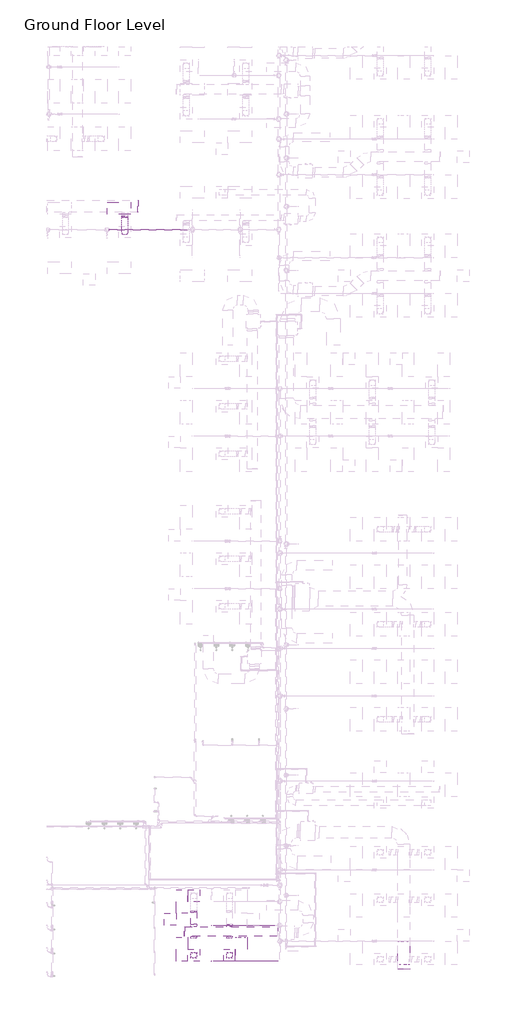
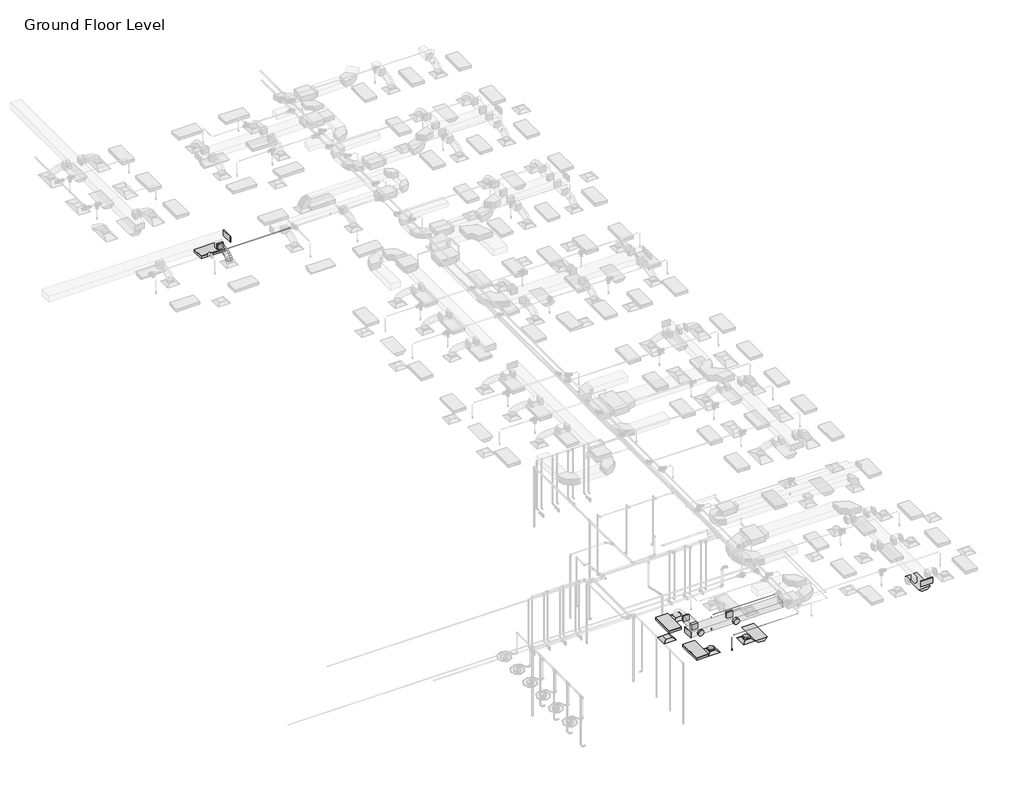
# One storey, part 13 of 68: 11 duct fittings, 5 duct segments, 5 light fixtures, 5 pipe segments, 4 air terminals, 2 fire suppression terminals.
"""IFC4 building model written with IfcOpenShell, lengths in millimetres."""

from ifc_helpers import new_model, si_unit, point, frame, frame_2d, origin, place, context, project, spatial, polyline, circle_curve, ellipse_curve, trimmed, segment, composite_curve, outline, extrude, transform, mapped, element, save
from ifc_brep_helpers import plane_surface, cylinder_surface, advanced_brep
from components import m_return_diffuser_600_x_600_face_300_x_300_connection_ff221211, m_rectangular_endcap_standard_72d4d00d, m_rectangular_endcap_standard_0f0ff112, m_rectangular_takeoff_standard_2be5eba1, m_rectangular_to_round_transition_angle_45_degree_641efff0, m_round_takeoff_standard_603b0510, m_sprinkler_dry_pendent_hosted_15_mm_dry_pendent_9bda8e11, m_emergency_recessed_lighting_fixture_600x1200_277_5b10b25d, m_troffer_light_parabolic_rectangular1_0600x1200mm_4_lamp_86473d4a

model = new_model("IFC4")

# Units and contexts
model_context = context("Model", 3, world=origin())
ifc_project = project(units=[si_unit("LENGTHUNIT", "METRE", prefix="MILLI")], contexts=[model_context])

# Site, building, storey
site = spatial("IfcSite", under=ifc_project)
building = spatial("IfcBuilding", under=site)
storey = spatial("IfcBuildingStorey", under=building, Name="Ground Floor Level", Elevation=900.0)

# Air terminals
placement = place(None, origin())
m_return_diffuser_600_x_600_face_300_x_300_connection_shape = m_return_diffuser_600_x_600_face_300_x_300_connection_ff221211(model_context)
element("IfcAirTerminal", 1, ObjectType="M_Return Diffuser : 600 x 600 Face 300 x 300 Connection", at=placement, inside=storey, context=model_context, shape_type="MappedRepresentation", body=[
    mapped(m_return_diffuser_600_x_600_face_300_x_300_connection_shape, transform((142.7672394, -37764.7846466, 3650.0), x_axis=(1.0, 0.0, 0.0), y_axis=(0.0, 1.0, 0.0), z_axis=(0.0, 0.0, 1.0))),
])
element("IfcAirTerminal", 2, ObjectType="M_Supply Diffuser : 600 x 600 Face 300 x 300 Connection", at=placement, inside=storey, context=model_context, shape_type="MappedRepresentation", body=[
    mapped(m_return_diffuser_600_x_600_face_300_x_300_connection_shape, transform((1342.7672394, -36564.7846466, 3650.0), x_axis=(1.0, 0.0, 0.0), y_axis=(0.0, 1.0, 0.0), z_axis=(0.0, 0.0, 1.0))),
])
element("IfcAirTerminal", 3, ObjectType="M_Supply Diffuser : 600 x 600 Face 300 x 300 Connection", at=placement, inside=storey, context=model_context, shape_type="MappedRepresentation", body=[
    mapped(m_return_diffuser_600_x_600_face_300_x_300_connection_shape, transform((1342.7672394, -39564.7846466, 3650.0), x_axis=(1.0, 0.0, 0.0), y_axis=(0.0, 1.0, 0.0), z_axis=(0.0, 0.0, 1.0))),
])
element("IfcAirTerminal", 4, ObjectType="M_Supply Diffuser : 600 x 600 Face 300 x 300 Connection", at=placement, inside=storey, context=model_context, shape_type="MappedRepresentation", body=[
    mapped(m_return_diffuser_600_x_600_face_300_x_300_connection_shape, transform((3142.7672394, -39564.7846466, 3650.0), x_axis=(1.0, 0.0, 0.0), y_axis=(0.0, 1.0, 0.0), z_axis=(0.0, 0.0, 1.0))),
])

# Duct fittings
m_rectangular_endcap_standard_shape = m_rectangular_endcap_standard_72d4d00d(model_context)
element("IfcDuctFitting", 5, ObjectType="M_Rectangular Endcap : Standard", at=placement, inside=storey, context=model_context, shape_type="MappedRepresentation", body=[
    mapped(m_rectangular_endcap_standard_shape, transform((877.3672394, -38372.6128682, 4100.0), x_axis=(-0.9999999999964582, 0.0, -2.6615447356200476e-06), y_axis=(0.0, -1.0000000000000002, 0.0), z_axis=(-2.6615447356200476e-06, 0.0, 0.9999999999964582))),
])
m_rectangular_endcap_standard_2_shape = m_rectangular_endcap_standard_0f0ff112(model_context)
element("IfcDuctFitting", 6, ObjectType="M_Rectangular Endcap : Standard", at=placement, inside=storey, context=model_context, shape_type="MappedRepresentation", body=[
    mapped(m_rectangular_endcap_standard_2_shape, transform((-1501.8327605, -1768.2846466, 4099.9873731), x_axis=(0.9999999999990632, 0.0, -1.368824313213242e-06), y_axis=(0.0, 1.0, 0.0), z_axis=(1.368824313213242e-06, 0.0, 0.9999999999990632))),
])
element("IfcDuctFitting", 7, ObjectType="M_Rectangular Endcap : Standard", at=placement, inside=storey, context=model_context, shape_type="MappedRepresentation", body=[
    mapped(m_rectangular_endcap_standard_2_shape, transform((11933.8644074, -40264.7726336, 4099.9875), x_axis=(0.0, -1.0, 0.0), y_axis=(1.0, 0.0, 0.0), z_axis=(0.0, 0.0, 1.0))),
])
m_rectangular_takeoff_standard_shape = m_rectangular_takeoff_standard_2be5eba1(model_context)
element("IfcDuctFitting", 8, ObjectType="M_Rectangular Takeoff : Standard", at=placement, inside=storey, context=model_context, shape_type="MappedRepresentation", body=[
    mapped(m_rectangular_takeoff_standard_shape, transform((3142.7672394, -38122.6128682, 4100.0), x_axis=(0.0, 1.0, 0.0), y_axis=(1.0, 0.0, 0.0), z_axis=(0.0, 0.0, -1.0))),
])
element("IfcDuctFitting", 9, ObjectType="M_Rectangular Takeoff : Standard", at=placement, inside=storey, context=model_context, shape_type="MappedRepresentation", body=[
    mapped(m_rectangular_takeoff_standard_shape, transform((1342.7672394, -38122.6128682, 4100.0), x_axis=(0.0, 1.0, 0.0), y_axis=(1.0, 0.0, 0.0), z_axis=(0.0, 0.0, -1.0))),
])
m_rectangular_to_round_transition_angle_45_degree_shape = m_rectangular_to_round_transition_angle_45_degree_641efff0(model_context)
element("IfcDuctFitting", 10, ObjectType="M_Rectangular to Round Transition - Angle : 45 Degree", at=placement, inside=storey, context=model_context, shape_type="MappedRepresentation", body=[
    mapped(m_rectangular_to_round_transition_angle_45_degree_shape, transform((-2137.2327605, -2237.4369582, 4099.9882429), x_axis=(0.0, -1.0, 0.0), y_axis=(1.0, 0.0, 0.0), z_axis=(0.0, 0.0, 1.0))),
])
element("IfcDuctFitting", 11, ObjectType="M_Rectangular to Round Transition - Angle : 45 Degree", at=placement, inside=storey, context=model_context, shape_type="MappedRepresentation", body=[
    mapped(m_rectangular_to_round_transition_angle_45_degree_shape, transform((1342.7672394, -39564.7846466, 3751.6), x_axis=(0.0, 0.0, 1.0), y_axis=(-1.0, 0.0, 0.0), z_axis=(0.0, -1.0, 0.0))),
])
element("IfcDuctFitting", 12, ObjectType="M_Rectangular to Round Transition - Angle : 45 Degree", at=placement, inside=storey, context=model_context, shape_type="MappedRepresentation", body=[
    mapped(m_rectangular_to_round_transition_angle_45_degree_shape, transform((3142.7672394, -39564.7846466, 3751.6), x_axis=(0.0, 0.0, 1.0), y_axis=(-1.0, 0.0, 0.0), z_axis=(0.0, -1.0, 0.0))),
])
element("IfcDuctFitting", 13, ObjectType="M_Rectangular to Round Transition - Angle : 45 Degree", at=placement, inside=storey, context=model_context, shape_type="MappedRepresentation", body=[
    mapped(m_rectangular_to_round_transition_angle_45_degree_shape, transform((1342.7672394, -37392.1205779, 4100.0), x_axis=(0.0, 1.0, 0.0), y_axis=(-1.0, 0.0, 0.0), z_axis=(0.0, 0.0, 1.0))),
])
m_round_takeoff_standard_shape = m_round_takeoff_standard_603b0510(model_context)
element("IfcDuctFitting", 14, ObjectType="M_Round Takeoff : Standard", at=placement, inside=storey, context=model_context, shape_type="MappedRepresentation", body=[
    mapped(m_round_takeoff_standard_shape, transform((1342.7672394, -38622.6128682, 4100.0), x_axis=(0.0, -1.0, 0.0), y_axis=(-1.0, 0.0, 0.0), z_axis=(0.0, 0.0, -1.0))),
])
element("IfcDuctFitting", 15, ObjectType="M_Round Takeoff : Standard", at=placement, inside=storey, context=model_context, shape_type="MappedRepresentation", body=[
    mapped(m_round_takeoff_standard_shape, transform((3142.7672394, -38622.6128682, 4100.0), x_axis=(0.0, -1.0, 0.0), y_axis=(-1.0, 0.0, 0.0), z_axis=(0.0, 0.0, -1.0))),
])

# Duct segments
element("IfcDuctSegment", 16, ObjectType="Flex - Round", at=placement, inside=storey, context=model_context, shape_type="AdvancedBrep", body=[
    advanced_brep(
    [(-1987.2327605, -3064.7846466, 3826.6), (-2137.2327605, -3214.7846466, 3826.6), (-2287.2327605, -3064.7846466, 3826.6), (-2137.2327605, -2914.7846466, 3826.6), (-1987.2327605, -3064.7846466, 3857.9382049), (-2137.2327605, -3214.7846466, 3883.5820304), (-2287.2327605, -3064.7846466, 3857.9382049), (-2137.2327605, -2914.7846466, 3832.2943795), (-1987.2327605, -3047.768388, 3906.2507872), (-2137.2327605, -3181.5056265, 3978.0678652), (-2287.2327605, -3047.768388, 3906.2507872), (-2137.2327605, -2914.0311496, 3834.4337093), (-1987.2327605, -3000.5836201, 3968.710775), (-2137.2327605, -3104.787507, 4079.622096), (-2287.2327605, -3000.5836201, 3968.710775), (-2137.2327605, -2896.3797333, 3857.7994541), (-1987.2327605, -2929.0263545, 4016.0680579), (-2137.2327605, -2997.957239, 4150.3233892), (-2287.2327605, -2929.0263545, 4016.0680579), (-2137.2327605, -2860.09547, 3881.8127266), (-1987.2327605, -2838.8926027, 4050.4107303), (-2137.2327605, -2882.4498996, 4194.3338808), (-2287.2327605, -2838.8926027, 4050.4107303), (-2137.2327605, -2795.3353058, 3906.4875799), (-1987.2327605, -2735.9783764, 4073.8268868), (-2137.2327605, -2762.5360145, 4221.6179832), (-2287.2327605, -2735.9783764, 4073.8268868), (-2137.2327605, -2709.4207382, 3926.0357904), (-1987.2327605, -2626.0796872, 4088.4046218), (-2137.2327605, -2641.2277335, 4237.7091667), (-2287.2327605, -2626.0796872, 4088.4046218), (-2137.2327605, -2610.9316408, 3939.1000769), (-1987.2327605, -2514.9925467, 4096.2320299), (-2137.2327605, -2522.4956529, 4246.0752516), (-2287.2327605, -2514.9925467, 4096.2320299), (-2137.2327605, -2507.4894404, 3946.3888082), (-1987.2327605, -2408.5129665, 4099.3972054), (-2137.2327605, -2411.2031539, 4249.3834943), (-2287.2327605, -2408.5129665, 4099.3972054), (-2137.2327605, -2405.822779, 3949.4109165), (-1987.2327605, -2312.4369582, 4099.9882429), (-2137.2327605, -2311.5142102, 3949.9910811), (-2287.2327605, -2312.4369582, 4099.9882429), (-2137.2327605, -2313.3597063, 4249.9854047)],
    [
        (0, 1, circle_curve(frame((-2137.2327605, -3064.7846466, 3826.6), z_axis=(0.0, 0.0, -1.0), x_axis=(1.0, 0.0, 0.0)), 150.0)),
        (1, 2, circle_curve(frame((-2137.2327605, -3064.7846466, 3826.6), z_axis=(0.0, 0.0, -1.0), x_axis=(1.0, 0.0, 0.0)), 150.0)),
        (2, 3, circle_curve(frame((-2137.2327605, -3064.7846466, 3826.6), z_axis=(0.0, 0.0, -1.0), x_axis=(1.0, 0.0, 0.0)), 150.0)),
        (3, 0, circle_curve(frame((-2137.2327605, -3064.7846466, 3826.6), z_axis=(0.0, 0.0, -1.0), x_axis=(1.0, 0.0, 0.0)), 150.0)),
        (0, 4),
        (4, 5, ellipse_curve(frame((-2137.2327605, -3064.7846466, 3857.9382049), z_axis=(0.0, -0.1685139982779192, -0.9856992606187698), x_axis=(0.0, 0.9856992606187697, -0.1685139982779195)), 152.1762326, 150.0)),
        (5, 1),
        (5, 6, ellipse_curve(frame((-2137.2327605, -3064.7846466, 3857.9382049), z_axis=(0.0, -0.1685139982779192, -0.9856992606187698), x_axis=(0.0, 0.9856992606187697, -0.1685139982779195)), 152.1762326, 150.0)),
        (6, 2),
        (6, 7, ellipse_curve(frame((-2137.2327605, -3064.7846466, 3857.9382049), z_axis=(0.0, -0.1685139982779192, -0.9856992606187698), x_axis=(0.0, 0.9856992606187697, -0.1685139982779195)), 152.1762326, 150.0)),
        (7, 3),
        (7, 4, ellipse_curve(frame((-2137.2327605, -3064.7846466, 3857.9382049), z_axis=(0.0, -0.1685139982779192, -0.9856992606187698), x_axis=(0.0, 0.9856992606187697, -0.1685139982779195)), 152.1762326, 150.0)),
        (4, 8),
        (8, 9, ellipse_curve(frame((-2137.2327605, -3047.768388, 3906.2507872), z_axis=(0.0, -0.4731022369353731, -0.8810075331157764), x_axis=(0.0, 0.8810075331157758, -0.47310223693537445)), 151.8003348, 150.0)),
        (9, 5),
        (9, 10, ellipse_curve(frame((-2137.2327605, -3047.768388, 3906.2507872), z_axis=(0.0, -0.4731022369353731, -0.8810075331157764), x_axis=(0.0, 0.8810075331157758, -0.47310223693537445)), 151.8003348, 150.0)),
        (10, 6),
        (10, 11, ellipse_curve(frame((-2137.2327605, -3047.768388, 3906.2507872), z_axis=(0.0, -0.4731022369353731, -0.8810075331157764), x_axis=(0.0, 0.8810075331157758, -0.47310223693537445)), 151.8003348, 150.0)),
        (11, 7),
        (11, 8, ellipse_curve(frame((-2137.2327605, -3047.768388, 3906.2507872), z_axis=(0.0, -0.4731022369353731, -0.8810075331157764), x_axis=(0.0, 0.8810075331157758, -0.47310223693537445)), 151.8003348, 150.0)),
        (8, 12),
        (12, 13, ellipse_curve(frame((-2137.2327605, -3000.5836201, 3968.710775), z_axis=(0.0, -0.728800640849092, -0.6847259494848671), x_axis=(0.0, 0.6847259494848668, -0.7288006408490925)), 152.1833472, 150.0)),
        (13, 9),
        (13, 14, ellipse_curve(frame((-2137.2327605, -3000.5836201, 3968.710775), z_axis=(0.0, -0.728800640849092, -0.6847259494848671), x_axis=(0.0, 0.6847259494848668, -0.7288006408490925)), 152.1833472, 150.0)),
        (14, 10),
        (14, 15, ellipse_curve(frame((-2137.2327605, -3000.5836201, 3968.710775), z_axis=(0.0, -0.728800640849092, -0.6847259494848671), x_axis=(0.0, 0.6847259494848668, -0.7288006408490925)), 152.1833472, 150.0)),
        (15, 11),
        (15, 12, ellipse_curve(frame((-2137.2327605, -3000.5836201, 3968.710775), z_axis=(0.0, -0.728800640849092, -0.6847259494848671), x_axis=(0.0, 0.6847259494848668, -0.7288006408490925)), 152.1833472, 150.0)),
        (12, 16),
        (16, 17, ellipse_curve(frame((-2137.2327605, -2929.0263545, 4016.0680579), z_axis=(0.0, -0.8895967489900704, -0.456746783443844), x_axis=(0.0, 0.45674678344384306, -0.8895967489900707)), 150.917066, 150.0)),
        (17, 13),
        (17, 18, ellipse_curve(frame((-2137.2327605, -2929.0263545, 4016.0680579), z_axis=(0.0, -0.8895967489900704, -0.456746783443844), x_axis=(0.0, 0.45674678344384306, -0.8895967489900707)), 150.917066, 150.0)),
        (18, 14),
        (18, 19, ellipse_curve(frame((-2137.2327605, -2929.0263545, 4016.0680579), z_axis=(0.0, -0.8895967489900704, -0.456746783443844), x_axis=(0.0, 0.45674678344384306, -0.8895967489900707)), 150.917066, 150.0)),
        (19, 15),
        (19, 16, ellipse_curve(frame((-2137.2327605, -2929.0263545, 4016.0680579), z_axis=(0.0, -0.8895967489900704, -0.456746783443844), x_axis=(0.0, 0.45674678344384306, -0.8895967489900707)), 150.917066, 150.0)),
        (16, 20),
        (20, 21, ellipse_curve(frame((-2137.2327605, -2838.8926027, 4050.4107303), z_axis=(0.0, -0.9571272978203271, -0.2896676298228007), x_axis=(0.0, 0.28966762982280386, -0.957127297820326)), 150.369915, 150.0)),
        (21, 17),
        (21, 22, ellipse_curve(frame((-2137.2327605, -2838.8926027, 4050.4107303), z_axis=(0.0, -0.9571272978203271, -0.2896676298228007), x_axis=(0.0, 0.28966762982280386, -0.957127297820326)), 150.369915, 150.0)),
        (22, 18),
        (22, 23, ellipse_curve(frame((-2137.2327605, -2838.8926027, 4050.4107303), z_axis=(0.0, -0.9571272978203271, -0.2896676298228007), x_axis=(0.0, 0.28966762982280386, -0.957127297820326)), 150.369915, 150.0)),
        (23, 19),
        (23, 20, ellipse_curve(frame((-2137.2327605, -2838.8926027, 4050.4107303), z_axis=(0.0, -0.9571272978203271, -0.2896676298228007), x_axis=(0.0, 0.28966762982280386, -0.957127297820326)), 150.369915, 150.0)),
        (20, 24),
        (24, 25, ellipse_curve(frame((-2137.2327605, -2735.9783764, 4073.8268868), z_axis=(0.0, -0.9842352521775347, -0.1768642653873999), x_axis=(0.0, 0.1768642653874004, -0.9842352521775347)), 150.1583042, 150.0)),
        (25, 21),
        (25, 26, ellipse_curve(frame((-2137.2327605, -2735.9783764, 4073.8268868), z_axis=(0.0, -0.9842352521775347, -0.1768642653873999), x_axis=(0.0, 0.1768642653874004, -0.9842352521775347)), 150.1583042, 150.0)),
        (26, 22),
        (26, 27, ellipse_curve(frame((-2137.2327605, -2735.9783764, 4073.8268868), z_axis=(0.0, -0.9842352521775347, -0.1768642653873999), x_axis=(0.0, 0.1768642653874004, -0.9842352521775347)), 150.1583042, 150.0)),
        (27, 23),
        (27, 24, ellipse_curve(frame((-2137.2327605, -2735.9783764, 4073.8268868), z_axis=(0.0, -0.9842352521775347, -0.1768642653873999), x_axis=(0.0, 0.1768642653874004, -0.9842352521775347)), 150.1583042, 150.0)),
        (24, 28),
        (28, 29, ellipse_curve(frame((-2137.2327605, -2626.0796872, 4088.4046218), z_axis=(0.0, -0.9948925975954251, -0.10093918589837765), x_axis=(0.0, 0.10093918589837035, -0.9948925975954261)), 150.071018, 150.0)),
        (29, 25),
        (29, 30, ellipse_curve(frame((-2137.2327605, -2626.0796872, 4088.4046218), z_axis=(0.0, -0.9948925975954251, -0.10093918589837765), x_axis=(0.0, 0.10093918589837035, -0.9948925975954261)), 150.071018, 150.0)),
        (30, 26),
        (30, 31, ellipse_curve(frame((-2137.2327605, -2626.0796872, 4088.4046218), z_axis=(0.0, -0.9948925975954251, -0.10093918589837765), x_axis=(0.0, 0.10093918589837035, -0.9948925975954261)), 150.071018, 150.0)),
        (31, 27),
        (31, 28, ellipse_curve(frame((-2137.2327605, -2626.0796872, 4088.4046218), z_axis=(0.0, -0.9948925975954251, -0.10093918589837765), x_axis=(0.0, 0.10093918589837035, -0.9948925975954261)), 150.071018, 150.0)),
        (28, 32),
        (32, 33, ellipse_curve(frame((-2137.2327605, -2514.9925467, 4096.2320299), z_axis=(0.0, -0.9987486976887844, -0.050010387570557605), x_axis=(0.0, 0.05001038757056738, -0.9987486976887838)), 150.0309558, 150.0)),
        (33, 29),
        (33, 34, ellipse_curve(frame((-2137.2327605, -2514.9925467, 4096.2320299), z_axis=(0.0, -0.9987486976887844, -0.050010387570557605), x_axis=(0.0, 0.05001038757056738, -0.9987486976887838)), 150.0309558, 150.0)),
        (34, 30),
        (34, 35, ellipse_curve(frame((-2137.2327605, -2514.9925467, 4096.2320299), z_axis=(0.0, -0.9987486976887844, -0.050010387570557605), x_axis=(0.0, 0.05001038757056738, -0.9987486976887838)), 150.0309558, 150.0)),
        (35, 31),
        (35, 32, ellipse_curve(frame((-2137.2327605, -2514.9925467, 4096.2320299), z_axis=(0.0, -0.9987486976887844, -0.050010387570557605), x_axis=(0.0, 0.05001038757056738, -0.9987486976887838)), 150.0309558, 150.0)),
        (32, 36),
        (36, 37, ellipse_curve(frame((-2137.2327605, -2408.5129665, 4099.3972054), z_axis=(0.0, -0.9998391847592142, -0.017933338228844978), x_axis=(0.0, 0.017933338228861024, -0.9998391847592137)), 150.0104128, 150.0)),
        (37, 33),
        (37, 38, ellipse_curve(frame((-2137.2327605, -2408.5129665, 4099.3972054), z_axis=(0.0, -0.9998391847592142, -0.017933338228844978), x_axis=(0.0, 0.017933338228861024, -0.9998391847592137)), 150.0104128, 150.0)),
        (38, 34),
        (38, 39, ellipse_curve(frame((-2137.2327605, -2408.5129665, 4099.3972054), z_axis=(0.0, -0.9998391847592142, -0.017933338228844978), x_axis=(0.0, 0.017933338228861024, -0.9998391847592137)), 150.0104128, 150.0)),
        (39, 35),
        (39, 36, ellipse_curve(frame((-2137.2327605, -2408.5129665, 4099.3972054), z_axis=(0.0, -0.9998391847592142, -0.017933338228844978), x_axis=(0.0, 0.017933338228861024, -0.9998391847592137)), 150.0104128, 150.0)),
        (40, 41, circle_curve(frame((-2137.2327605, -2312.4369582, 4099.9882429), z_axis=(0.0, 0.9999810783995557, 0.006151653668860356), x_axis=(1.0, 0.0, 0.0)), 150.0)),
        (41, 42, circle_curve(frame((-2137.2327605, -2312.4369582, 4099.9882429), z_axis=(0.0, 0.9999810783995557, 0.006151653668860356), x_axis=(1.0, 0.0, 0.0)), 150.0)),
        (42, 43, circle_curve(frame((-2137.2327605, -2312.4369582, 4099.9882429), z_axis=(0.0, 0.9999810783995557, 0.006151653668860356), x_axis=(1.0, 0.0, 0.0)), 150.0)),
        (43, 40, circle_curve(frame((-2137.2327605, -2312.4369582, 4099.9882429), z_axis=(0.0, 0.9999810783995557, 0.006151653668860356), x_axis=(1.0, 0.0, 0.0)), 150.0)),
        (36, 40),
        (43, 37),
        (42, 38),
        (41, 39),
    ],
    [
        plane_surface(frame((-2137.2327605, -3214.7846466, 3826.6), z_axis=(0.0, 0.0, -1.0), x_axis=(1.0, 0.0, 0.0))),
        cylinder_surface(frame((-2137.2327605, -3064.7846466, 3826.6), z_axis=(0.0, 0.0, -1.0), x_axis=(1.0, 0.0, 0.0)), 150.0),
        cylinder_surface(frame((-2137.2327605, -3064.7846466, 3857.9382049), z_axis=(0.0, -0.33220824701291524, -0.9432060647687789), x_axis=(1.0, 0.0, 0.0)), 150.0),
        cylinder_surface(frame((-2137.2327605, -3047.768388, 3906.2507872), z_axis=(0.0, -0.6027743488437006, -0.7979117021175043), x_axis=(1.0, 0.0, 0.0)), 150.0),
        cylinder_surface(frame((-2137.2327605, -3000.5836201, 3968.710775), z_axis=(0.0, -0.83391498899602, -0.5518929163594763), x_axis=(1.0, 0.0, 0.0)), 150.0),
        cylinder_surface(frame((-2137.2327605, -2929.0263545, 4016.0680579), z_axis=(0.0, -0.9344670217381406, -0.3560496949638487), x_axis=(1.0, 0.0, 0.0)), 150.0),
        cylinder_surface(frame((-2137.2327605, -2838.8926027, 4050.4107303), z_axis=(0.0, -0.9750784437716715, -0.2218603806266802), x_axis=(1.0, 0.0, 0.0)), 150.0),
        cylinder_surface(frame((-2137.2327605, -2735.9783764, 4073.8268868), z_axis=(0.0, -0.9913168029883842, -0.13149523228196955), x_axis=(1.0, 0.0, 0.0)), 150.0),
        cylinder_surface(frame((-2137.2327605, -2626.0796872, 4088.4046218), z_axis=(0.0, -0.9975267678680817, -0.07028760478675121), x_axis=(1.0, 0.0, 0.0)), 150.0),
        cylinder_surface(frame((-2137.2327605, -2514.9925467, 4096.2320299), z_axis=(0.0, -0.9995584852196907, -0.02971253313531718), x_axis=(1.0, 0.0, 0.0)), 150.0),
        plane_surface(frame((-2137.2327605, -2313.3597063, 4249.9854047), z_axis=(0.0, 0.9999810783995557, 0.006151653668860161), x_axis=(1.0, 0.0, 0.0))),
        cylinder_surface(frame((-2137.2327605, -2408.5129665, 4099.3972054), z_axis=(0.0, -0.9999810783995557, -0.006151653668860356), x_axis=(1.0, 0.0, 0.0)), 150.0),
    ],
    [
        (0, [[1, 2, 3, 4]]),
        (1, [[-1, 5, 6, 7]]),
        (1, [[-2, -7, 8, 9]]),
        (1, [[-3, -9, 10, 11]]),
        (1, [[-4, -11, 12, -5]]),
        (2, [[-6, 13, 14, 15]]),
        (2, [[-8, -15, 16, 17]]),
        (2, [[-10, -17, 18, 19]]),
        (2, [[-12, -19, 20, -13]]),
        (3, [[-14, 21, 22, 23]]),
        (3, [[-16, -23, 24, 25]]),
        (3, [[-18, -25, 26, 27]]),
        (3, [[-20, -27, 28, -21]]),
        (4, [[-22, 29, 30, 31]]),
        (4, [[-24, -31, 32, 33]]),
        (4, [[-26, -33, 34, 35]]),
        (4, [[-28, -35, 36, -29]]),
        (5, [[-30, 37, 38, 39]]),
        (5, [[-32, -39, 40, 41]]),
        (5, [[-34, -41, 42, 43]]),
        (5, [[-36, -43, 44, -37]]),
        (6, [[-38, 45, 46, 47]]),
        (6, [[-40, -47, 48, 49]]),
        (6, [[-42, -49, 50, 51]]),
        (6, [[-44, -51, 52, -45]]),
        (7, [[-46, 53, 54, 55]]),
        (7, [[-48, -55, 56, 57]]),
        (7, [[-50, -57, 58, 59]]),
        (7, [[-52, -59, 60, -53]]),
        (8, [[-54, 61, 62, 63]]),
        (8, [[-56, -63, 64, 65]]),
        (8, [[-58, -65, 66, 67]]),
        (8, [[-60, -67, 68, -61]]),
        (9, [[-62, 69, 70, 71]]),
        (9, [[-64, -71, 72, 73]]),
        (9, [[-66, -73, 74, 75]]),
        (9, [[-68, -75, 76, -69]]),
        (10, [[77, 78, 79, 80]]),
        (11, [[-70, 81, -80, 82]]),
        (11, [[-72, -82, -79, 83]]),
        (11, [[-74, -83, -78, 84]]),
        (11, [[-76, -84, -77, -81]]),
    ],
),
])
element("IfcDuctSegment", 17, ObjectType="Flex - Round", at=placement, inside=storey, context=model_context, shape_type="AdvancedBrep", body=[
    advanced_brep(
    [(1492.7672394, -39564.7846466, 3826.6), (1342.7672394, -39714.7846466, 3826.6), (1192.7672394, -39564.7846466, 3826.6), (1342.7672394, -39414.7846466, 3826.6), (1492.7672394, -39564.7846466, 3860.5958413), (1342.7672394, -39414.7846466, 3830.2822637), (1192.7672394, -39564.7846466, 3860.5958413), (1342.7672394, -39714.7846466, 3890.9094188)],
    [
        (0, 1, circle_curve(frame((1342.7672394, -39564.7846466, 3826.6), z_axis=(0.0, 0.0, -1.0), x_axis=(1.0, 0.0, 0.0)), 150.0)),
        (1, 2, circle_curve(frame((1342.7672394, -39564.7846466, 3826.6), z_axis=(0.0, 0.0, -1.0), x_axis=(1.0, 0.0, 0.0)), 150.0)),
        (2, 3, circle_curve(frame((1342.7672394, -39564.7846466, 3826.6), z_axis=(0.0, 0.0, -1.0), x_axis=(1.0, 0.0, 0.0)), 150.0)),
        (3, 0, circle_curve(frame((1342.7672394, -39564.7846466, 3826.6), z_axis=(0.0, 0.0, -1.0), x_axis=(1.0, 0.0, 0.0)), 150.0)),
        (4, 5, ellipse_curve(frame((1342.7672394, -39564.7846466, 3860.5958413), z_axis=(0.0, 0.19808602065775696, 0.9801846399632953), x_axis=(0.0, 0.9801846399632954, -0.19808602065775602)), 153.0323919, 150.0)),
        (5, 6, ellipse_curve(frame((1342.7672394, -39564.7846466, 3860.5958413), z_axis=(0.0, 0.19808602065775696, 0.9801846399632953), x_axis=(0.0, 0.9801846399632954, -0.19808602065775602)), 153.0323919, 150.0)),
        (6, 7, ellipse_curve(frame((1342.7672394, -39564.7846466, 3860.5958413), z_axis=(0.0, 0.19808602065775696, 0.9801846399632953), x_axis=(0.0, 0.9801846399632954, -0.19808602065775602)), 153.0323919, 150.0)),
        (7, 4, ellipse_curve(frame((1342.7672394, -39564.7846466, 3860.5958413), z_axis=(0.0, 0.19808602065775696, 0.9801846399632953), x_axis=(0.0, 0.9801846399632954, -0.19808602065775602)), 153.0323919, 150.0)),
        (0, 4),
        (7, 1),
        (6, 2),
        (5, 3),
    ],
    [
        plane_surface(frame((1342.7672394, -39714.7846466, 3826.6), z_axis=(0.0, 0.0, -1.0), x_axis=(1.0, 0.0, 0.0))),
        plane_surface(frame((1492.7672394, -39564.7846466, 3860.5958413), z_axis=(0.0, 0.19808602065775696, 0.9801846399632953), x_axis=(0.0, 0.9801846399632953, -0.19808602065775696))),
        cylinder_surface(frame((1342.7672394, -39564.7846466, 3826.6), z_axis=(0.0, 0.0, -1.0), x_axis=(1.0, 0.0, 0.0)), 150.0),
    ],
    [
        (0, [[1, 2, 3, 4]]),
        (1, [[5, 6, 7, 8]]),
        (2, [[-1, 9, -8, 10]]),
        (2, [[-2, -10, -7, 11]]),
        (2, [[-3, -11, -6, 12]]),
        (2, [[-4, -12, -5, -9]]),
    ],
),
])
element("IfcDuctSegment", 18, ObjectType="Flex - Round", at=placement, inside=storey, context=model_context, shape_type="AdvancedBrep", body=[
    advanced_brep(
    [(3292.7672394, -39564.7846466, 3826.6), (3142.7672394, -39714.7846466, 3826.6), (2992.7672394, -39564.7846466, 3826.6), (3142.7672394, -39414.7846466, 3826.6), (3292.7672394, -39564.7846466, 3860.5958413), (3142.7672394, -39414.7846466, 3830.2822637), (2992.7672394, -39564.7846466, 3860.5958413), (3142.7672394, -39714.7846466, 3890.9094188)],
    [
        (0, 1, circle_curve(frame((3142.7672394, -39564.7846466, 3826.6), z_axis=(0.0, 0.0, -1.0), x_axis=(1.0, 0.0, 0.0)), 150.0)),
        (1, 2, circle_curve(frame((3142.7672394, -39564.7846466, 3826.6), z_axis=(0.0, 0.0, -1.0), x_axis=(1.0, 0.0, 0.0)), 150.0)),
        (2, 3, circle_curve(frame((3142.7672394, -39564.7846466, 3826.6), z_axis=(0.0, 0.0, -1.0), x_axis=(1.0, 0.0, 0.0)), 150.0)),
        (3, 0, circle_curve(frame((3142.7672394, -39564.7846466, 3826.6), z_axis=(0.0, 0.0, -1.0), x_axis=(1.0, 0.0, 0.0)), 150.0)),
        (4, 5, ellipse_curve(frame((3142.7672394, -39564.7846466, 3860.5958413), z_axis=(0.0, 0.19808602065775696, 0.9801846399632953), x_axis=(0.0, 0.9801846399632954, -0.19808602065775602)), 153.0323919, 150.0)),
        (5, 6, ellipse_curve(frame((3142.7672394, -39564.7846466, 3860.5958413), z_axis=(0.0, 0.19808602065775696, 0.9801846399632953), x_axis=(0.0, 0.9801846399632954, -0.19808602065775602)), 153.0323919, 150.0)),
        (6, 7, ellipse_curve(frame((3142.7672394, -39564.7846466, 3860.5958413), z_axis=(0.0, 0.19808602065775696, 0.9801846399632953), x_axis=(0.0, 0.9801846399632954, -0.19808602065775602)), 153.0323919, 150.0)),
        (7, 4, ellipse_curve(frame((3142.7672394, -39564.7846466, 3860.5958413), z_axis=(0.0, 0.19808602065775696, 0.9801846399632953), x_axis=(0.0, 0.9801846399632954, -0.19808602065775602)), 153.0323919, 150.0)),
        (0, 4),
        (7, 1),
        (6, 2),
        (5, 3),
    ],
    [
        plane_surface(frame((3142.7672394, -39714.7846466, 3826.6), z_axis=(0.0, 0.0, -1.0), x_axis=(1.0, 0.0, 0.0))),
        plane_surface(frame((3292.7672394, -39564.7846466, 3860.5958413), z_axis=(0.0, 0.19808602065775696, 0.9801846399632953), x_axis=(0.0, 0.9801846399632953, -0.19808602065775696))),
        cylinder_surface(frame((3142.7672394, -39564.7846466, 3826.6), z_axis=(0.0, 0.0, -1.0), x_axis=(1.0, 0.0, 0.0)), 150.0),
    ],
    [
        (0, [[1, 2, 3, 4]]),
        (1, [[5, 6, 7, 8]]),
        (2, [[-1, 9, -8, 10]]),
        (2, [[-2, -10, -7, 11]]),
        (2, [[-3, -11, -6, 12]]),
        (2, [[-4, -12, -5, -9]]),
    ],
),
])
element("IfcDuctSegment", 19, ObjectType="Radius Elbows / Taps", at=placement, inside=storey, context=model_context, shape_type="SweptSolid", body=[
    extrude(outline(polyline([(5573.8880106, -38122.6128682), (5573.8880106, -38622.6128682), (877.3672394, -38622.6128682), (877.3672394, -38122.6128682), (5573.8880106, -38122.6128682)])), frame((0.0, 0.0, 3950.0), z_axis=(0.0, 0.0, 1.0), x_axis=(1.0, 0.0, 0.0)), (0.0, 0.0, 1.0), 300.0),
])
element("IfcDuctSegment", 20, ObjectType="Radius Elbows / Taps", at=placement, inside=storey, context=model_context, shape_type="SweptSolid", body=[
    extrude(outline(polyline([(1492.7672394, -38021.0128682), (1192.7672394, -38021.0128682), (1192.7672394, -37392.1205779), (1492.7672394, -37392.1205779), (1492.7672394, -38021.0128682)])), frame((0.0, 0.0, 3950.0), z_axis=(0.0, 0.0, 1.0), x_axis=(1.0, 0.0, 0.0)), (0.0, 0.0, 1.0), 300.0),
])

# Fire suppression terminals
m_sprinkler_dry_pendent_hosted_15_mm_dry_pendent_shape = m_sprinkler_dry_pendent_hosted_15_mm_dry_pendent_9bda8e11(model_context)
element("IfcFireSuppressionTerminal", 21, ObjectType="M_Sprinkler - Dry - Pendent - Hosted : 15 mm Dry Pendent", at=placement, inside=storey, context=model_context, shape_type="MappedRepresentation", body=[
    mapped(m_sprinkler_dry_pendent_hosted_15_mm_dry_pendent_shape, transform((2242.7672394, -39864.7846466, 3650.0), x_axis=(1.0, 0.0, 0.0), y_axis=(0.0, -1.0, 0.0), z_axis=(0.0, 0.0, -1.0))),
])
element("IfcFireSuppressionTerminal", 22, ObjectType="M_Sprinkler - Dry - Pendent - Hosted : 15 mm Dry Pendent", at=placement, inside=storey, context=model_context, shape_type="MappedRepresentation", body=[
    mapped(m_sprinkler_dry_pendent_hosted_15_mm_dry_pendent_shape, transform((2242.7672394, -38064.7846466, 3650.0), x_axis=(1.0, 0.0, 0.0), y_axis=(0.0, -1.0, 0.0), z_axis=(0.0, 0.0, -1.0))),
])

# Light fixtures
m_emergency_recessed_lighting_fixture_600x1200_277_shape = m_emergency_recessed_lighting_fixture_600x1200_277_5b10b25d(model_context)
element("IfcLightFixture", 23, ObjectType="M_Emergency Recessed Lighting Fixture : 600x1200 - 277", at=placement, inside=storey, context=model_context, shape_type="MappedRepresentation", body=[
    mapped(m_emergency_recessed_lighting_fixture_600x1200_277_shape, transform((11643.0482736, -40064.7846466, 3650.0), x_axis=(0.0, 1.0, 0.0), y_axis=(-1.0, 0.0, 0.0), z_axis=(0.0, 0.0, 1.0))),
])
element("IfcLightFixture", 24, ObjectType="M_Emergency Recessed Lighting Fixture : 600x1200 - 277", at=placement, inside=storey, context=model_context, shape_type="MappedRepresentation", body=[
    mapped(m_emergency_recessed_lighting_fixture_600x1200_277_shape, transform((3442.7672394, -39864.7846466, 3650.0), x_axis=(0.0, 1.0, 0.0), y_axis=(-1.0, 0.0, 0.0), z_axis=(0.0, 0.0, 1.0))),
])
m_troffer_light_parabolic_rectangular1_0600x1200mm_4_lamp_shape = m_troffer_light_parabolic_rectangular1_0600x1200mm_4_lamp_86473d4a(model_context)
element("IfcLightFixture", 25, ObjectType="M_Troffer Light - Parabolic Rectangular1 : 0600x1200mm(4 Lamp) - 277V 2", at=placement, inside=storey, context=model_context, shape_type="MappedRepresentation", body=[
    mapped(m_troffer_light_parabolic_rectangular1_0600x1200mm_4_lamp_shape, transform((-2418.5292589, -1805.3187145, 3650.0), x_axis=(1.0, 0.0, 0.0), y_axis=(0.0, 1.0, 0.0), z_axis=(0.0, 0.0, 1.0))),
])
element("IfcLightFixture", 26, ObjectType="M_Troffer Light - Parabolic Rectangular1 : 0600x1200mm(4 Lamp) - 277V 2", at=placement, inside=storey, context=model_context, shape_type="MappedRepresentation", body=[
    mapped(m_troffer_light_parabolic_rectangular1_0600x1200mm_4_lamp_shape, transform((683.3013073, -36846.081145, 3650.0), x_axis=(0.0, 1.0, 0.0), y_axis=(-1.0, 0.0, 0.0), z_axis=(0.0, 0.0, 1.0))),
])
element("IfcLightFixture", 27, ObjectType="M_Troffer Light - Parabolic Rectangular1 : 0600x1200mm(4 Lamp) - 277V 2", at=placement, inside=storey, context=model_context, shape_type="MappedRepresentation", body=[
    mapped(m_troffer_light_parabolic_rectangular1_0600x1200mm_4_lamp_shape, transform((683.3013073, -39246.081145, 3650.0), x_axis=(0.0, 1.0, 0.0), y_axis=(-1.0, 0.0, 0.0), z_axis=(0.0, 0.0, 1.0))),
])

# Pipe segments
element("IfcPipeSegment", 28, ObjectType="Steel flanged", at=placement, inside=storey, context=model_context, shape_type="SweptSolid", body=[
    extrude(outline(composite_curve([segment(trimmed(circle_curve(frame_2d((-2950.3491993, 4360.0)), 21.082), [point((-2929.2671993, 4360.0))], [point((-2950.3491993, 4338.918))], False, "CARTESIAN"), True, "CONTINUOUS"), segment(trimmed(circle_curve(frame_2d((-2950.3491993, 4360.0)), 21.082), [point((-2950.3491993, 4338.918))], [point((-2971.4311993, 4360.0))], False, "CARTESIAN"), True, "CONTINUOUS"), segment(trimmed(circle_curve(frame_2d((-2950.3491993, 4360.0)), 21.082), [point((-2971.4311993, 4360.0))], [point((-2950.3491993, 4381.082))], False, "CARTESIAN"), True, "CONTINUOUS"), segment(trimmed(circle_curve(frame_2d((-2950.3491993, 4360.0)), 21.082), [point((-2950.3491993, 4381.082))], [point((-2929.2671993, 4360.0))], False, "CARTESIAN"), True, "CONTINUOUS")], self_intersect=False)), frame((-2931.1341668, 0.0, 0.0), z_axis=(1.0, 0.0, 0.0), x_axis=(0.0, 1.0, 0.0)), (0.0, 0.0, 1.0), 3977.9014063),
])
element("IfcPipeSegment", 29, ObjectType="Steel flanged", at=placement, inside=storey, context=model_context, shape_type="SweptSolid", body=[
    extrude(outline(composite_curve([segment(trimmed(circle_curve(frame_2d((2242.7672394, -38064.7846466)), 10.668), [point((2232.0992394, -38064.7846466))], [point((2242.7672394, -38054.1166466))], False, "CARTESIAN"), True, "CONTINUOUS"), segment(trimmed(circle_curve(frame_2d((2242.7672394, -38064.7846466)), 10.668), [point((2242.7672394, -38054.1166466))], [point((2253.4352394, -38064.7846466))], False, "CARTESIAN"), True, "CONTINUOUS"), segment(trimmed(circle_curve(frame_2d((2242.7672394, -38064.7846466)), 10.668), [point((2253.4352394, -38064.7846466))], [point((2242.7672394, -38075.4526466))], False, "CARTESIAN"), True, "CONTINUOUS"), segment(trimmed(circle_curve(frame_2d((2242.7672394, -38064.7846466)), 10.668), [point((2242.7672394, -38075.4526466))], [point((2232.0992394, -38064.7846466))], False, "CARTESIAN"), True, "CONTINUOUS")], self_intersect=False)), frame((0.0, 0.0, 3650.0), z_axis=(0.0, 0.0, 1.0), x_axis=(1.0, 0.0, 0.0)), (0.0, 0.0, 1.0), 604.4914062),
])
element("IfcPipeSegment", 30, ObjectType="Steel flanged", at=placement, inside=storey, context=model_context, shape_type="SweptSolid", body=[
    extrude(outline(composite_curve([segment(trimmed(circle_curve(frame_2d((-38064.7846466, 4347.5)), 10.668), [point((-38075.4526466, 4347.5))], [point((-38064.7846466, 4358.168))], False, "CARTESIAN"), True, "CONTINUOUS"), segment(trimmed(circle_curve(frame_2d((-38064.7846466, 4347.5)), 10.668), [point((-38064.7846466, 4358.168))], [point((-38054.1166466, 4347.5))], False, "CARTESIAN"), True, "CONTINUOUS"), segment(trimmed(circle_curve(frame_2d((-38064.7846466, 4347.5)), 10.668), [point((-38054.1166466, 4347.5))], [point((-38064.7846466, 4336.832))], False, "CARTESIAN"), True, "CONTINUOUS"), segment(trimmed(circle_curve(frame_2d((-38064.7846466, 4347.5)), 10.668), [point((-38064.7846466, 4336.832))], [point((-38075.4526466, 4347.5))], False, "CARTESIAN"), True, "CONTINUOUS")], self_intersect=False)), frame((2335.7758332, 0.0, 0.0), z_axis=(1.0, 0.0, 0.0), x_axis=(0.0, 1.0, 0.0)), (0.0, 0.0, 1.0), 3128.7430625),
])
element("IfcPipeSegment", 31, ObjectType="Steel flanged", at=placement, inside=storey, context=model_context, shape_type="SweptSolid", body=[
    extrude(outline(composite_curve([segment(trimmed(circle_curve(frame_2d((2242.7672394, -39864.7846466)), 10.668), [point((2232.0992394, -39864.7846466))], [point((2242.7672394, -39854.1166466))], False, "CARTESIAN"), True, "CONTINUOUS"), segment(trimmed(circle_curve(frame_2d((2242.7672394, -39864.7846466)), 10.668), [point((2242.7672394, -39854.1166466))], [point((2253.4352394, -39864.7846466))], False, "CARTESIAN"), True, "CONTINUOUS"), segment(trimmed(circle_curve(frame_2d((2242.7672394, -39864.7846466)), 10.668), [point((2253.4352394, -39864.7846466))], [point((2242.7672394, -39875.4526466))], False, "CARTESIAN"), True, "CONTINUOUS"), segment(trimmed(circle_curve(frame_2d((2242.7672394, -39864.7846466)), 10.668), [point((2242.7672394, -39875.4526466))], [point((2232.0992394, -39864.7846466))], False, "CARTESIAN"), True, "CONTINUOUS")], self_intersect=False)), frame((0.0, 0.0, 3650.0), z_axis=(0.0, 0.0, 1.0), x_axis=(1.0, 0.0, 0.0)), (0.0, 0.0, 1.0), 604.4914062),
])
element("IfcPipeSegment", 32, ObjectType="Steel flanged", at=placement, inside=storey, context=model_context, shape_type="SweptSolid", body=[
    extrude(outline(composite_curve([segment(trimmed(circle_curve(frame_2d((-39864.7846466, 4347.5)), 10.668), [point((-39875.4526466, 4347.5))], [point((-39864.7846466, 4358.168))], False, "CARTESIAN"), True, "CONTINUOUS"), segment(trimmed(circle_curve(frame_2d((-39864.7846466, 4347.5)), 10.668), [point((-39864.7846466, 4358.168))], [point((-39854.1166466, 4347.5))], False, "CARTESIAN"), True, "CONTINUOUS"), segment(trimmed(circle_curve(frame_2d((-39864.7846466, 4347.5)), 10.668), [point((-39854.1166466, 4347.5))], [point((-39864.7846466, 4336.832))], False, "CARTESIAN"), True, "CONTINUOUS"), segment(trimmed(circle_curve(frame_2d((-39864.7846466, 4347.5)), 10.668), [point((-39864.7846466, 4336.832))], [point((-39875.4526466, 4347.5))], False, "CARTESIAN"), True, "CONTINUOUS")], self_intersect=False)), frame((2335.7758332, 0.0, 0.0), z_axis=(1.0, 0.0, 0.0), x_axis=(0.0, 1.0, 0.0)), (0.0, 0.0, 1.0), 3255.8330625),
])

save(model, "model.ifc")
